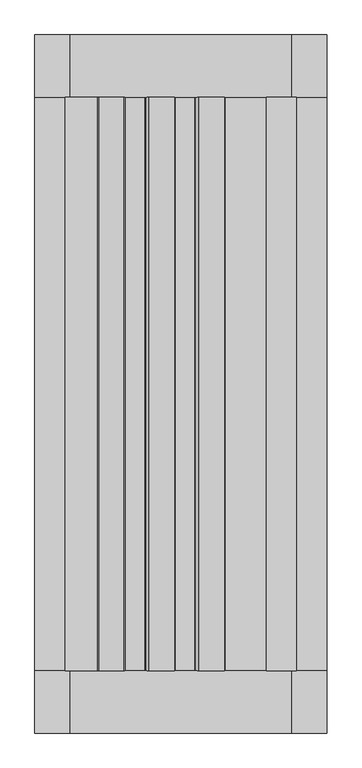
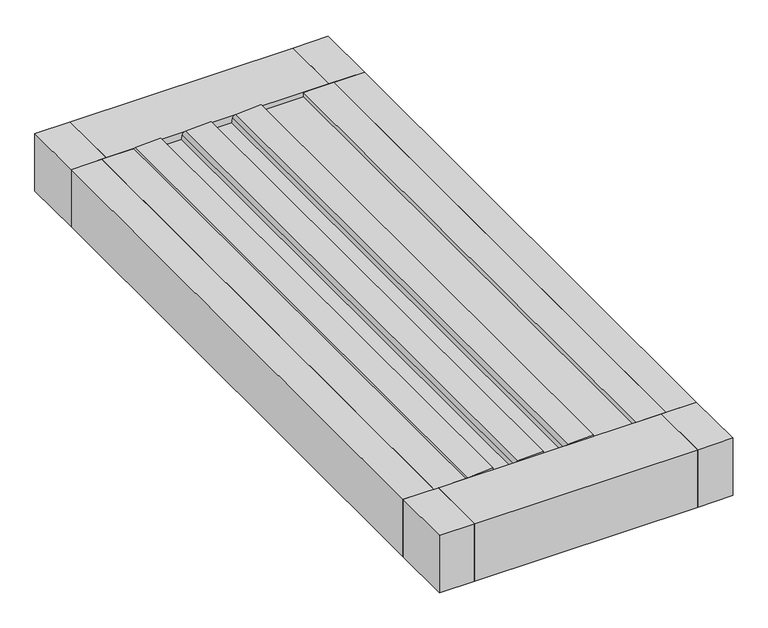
"""IFC4 building model written with IfcOpenShell, lengths in millimetres: proxy geometry, Renson_Aero_Skye_Patio covers : Aero Skye - Single."""

from ifc_helpers import new_model, si_unit, point, frame, frame_2d, origin, place, context, project, spatial, polyline, circle_curve, trimmed, segment, composite_curve, outline, extrude, source, transform, mapped, element, save


def generic_models_31180d13(model_context):
    return source(origin(), model_context, "Body", "SweptSolid", [
        extrude(outline(composite_curve([segment(polyline([(-41.65, -55.9044673), (-13.98802, -53.4843576), (-12.6029636, -24.6491072), (6.8911096, -28.0864383), (1.6075693, -138.0835531)]), True, "CONTINUOUS"), segment(trimmed(circle_curve(frame_2d((-13.3751565, -137.3638812)), 15.0), [point((1.6075693, -138.0835531))], [point((-10.7704338, -152.1359975))], False, "CARTESIAN"), True, "CONTINUOUS"), segment(polyline([(-10.7704338, -152.1359975), (-30.0, -155.5266888), (-30.0, -243.2624648), (-12.9211763, -246.2739223), (-13.6549818, -261.5508927), (-41.65, -264.0001395), (-41.65, -55.9044673)]), True, "CONTINUOUS")], self_intersect=False)), frame((0.0, -1232.0, 0.0), z_axis=(0.0, 1.0, 0.0), x_axis=(0.0, 0.0, 1.0)), (0.0, 0.0, 1.0), 2464.0),
        extrude(outline(composite_curve([segment(polyline([(-41.65, 159.181971), (-13.98802, 161.6020806), (-12.6029636, 190.4373311), (6.8911096, 187.0), (1.6075693, 77.0028852)]), True, "CONTINUOUS"), segment(trimmed(circle_curve(frame_2d((-13.3751565, 77.7225571)), 15.0), [point((1.6075693, 77.0028852))], [point((-10.7704338, 62.9504408))], False, "CARTESIAN"), True, "CONTINUOUS"), segment(polyline([(-10.7704338, 62.9504408), (-30.0, 59.5597494), (-30.0, -28.1760266), (-12.9211763, -31.187484), (-13.6549818, -46.4644545), (-41.65, -48.9137012), (-41.65, 159.181971)]), True, "CONTINUOUS")], self_intersect=False)), frame((0.0, -1232.0, 0.0), z_axis=(0.0, 1.0, 0.0), x_axis=(0.0, 0.0, 1.0)), (0.0, 0.0, 1.0), 2464.0),
        extrude(outline(composite_curve([segment(polyline([(-41.65, -270.9909055), (-13.98802, -268.5707959), (-12.6029636, -239.7355454), (6.8911096, -243.1728765), (1.6075693, -353.1699914)]), True, "CONTINUOUS"), segment(trimmed(circle_curve(frame_2d((-13.3751565, -352.4503194)), 15.0), [point((1.6075693, -353.1699914))], [point((-10.7704338, -367.2224357))], False, "CARTESIAN"), True, "CONTINUOUS"), segment(polyline([(-10.7704338, -367.2224357), (-30.0, -370.6131271), (-30.0, -458.3489031), (-12.9211763, -461.3603605), (-13.6549818, -476.637331), (-41.65, -479.0865777), (-41.65, -270.9909055)]), True, "CONTINUOUS")], self_intersect=False)), frame((0.0, -1232.0, 0.0), z_axis=(0.0, 1.0, 0.0), x_axis=(0.0, 0.0, 1.0)), (0.0, 0.0, 1.0), 2464.0),
        extrude(outline(polyline([(-63.35, 497.0), (0.0, 497.0), (0.0, 367.5), (-20.0, 367.5), (-20.0, 187.0), (-44.0, 187.0), (-44.0, 337.0), (-63.35, 337.0), (-63.35, 497.0)])), frame((0.0, -1232.0, 0.0), z_axis=(0.0, 1.0, 0.0), x_axis=(0.0, 0.0, 1.0)), (0.0, 0.0, 1.0), 2464.0),
        extrude(outline(polyline([(0.0, -337.0), (0.0, -497.0), (-44.0, -497.0), (-44.0, -364.3193336), (-10.8283397, -361.4171894), (-9.655498, -337.0), (0.0, -337.0)])), frame((0.0, -1232.0, 0.0), z_axis=(0.0, 1.0, 0.0), x_axis=(0.0, 0.0, 1.0)), (0.0, 0.0, 1.0), 2464.0),
        extrude(outline(polyline([(628.0, -1500.0), (478.0, -1500.0), (478.0, -1232.0), (628.0, -1232.0), (628.0, -1500.0)])), frame((0.0, 0.0, -260.0), z_axis=(0.0, 0.0, 1.0), x_axis=(1.0, 0.0, 0.0)), (0.0, 0.0, 1.0), 260.0),
        extrude(outline(polyline([(-628.0, -1500.0), (-628.0, -1232.0), (-478.0, -1232.0), (-478.0, -1500.0), (-628.0, -1500.0)])), frame((0.0, 0.0, -260.0), z_axis=(0.0, 0.0, 1.0), x_axis=(1.0, 0.0, 0.0)), (0.0, 0.0, 1.0), 260.0),
        extrude(outline(polyline([(-478.0, 1232.0), (-628.0, 1232.0), (-628.0, 1500.0), (-478.0, 1500.0), (-478.0, 1232.0)])), frame((0.0, 0.0, -260.0), z_axis=(0.0, 0.0, 1.0), x_axis=(1.0, 0.0, 0.0)), (0.0, 0.0, 1.0), 260.0),
        extrude(outline(polyline([(628.0, 1500.0), (628.0, 1232.0), (478.0, 1232.0), (478.0, 1500.0), (628.0, 1500.0)])), frame((0.0, 0.0, -260.0), z_axis=(0.0, 0.0, 1.0), x_axis=(1.0, 0.0, 0.0)), (0.0, 0.0, 1.0), 260.0),
        extrude(outline(polyline([(-1232.0, -188.0), (-1170.0, -188.0), (-1170.0, -260.0), (-1500.0, -260.0), (-1500.0, 0.0), (-1232.0, 0.0), (-1232.0, -188.0)])), frame((-478.0, 0.0, 0.0), z_axis=(1.0, 0.0, 0.0), x_axis=(0.0, 1.0, 0.0)), (0.0, 0.0, 1.0), 956.0),
        extrude(outline(polyline([(1232.0, -188.0), (1232.0, 0.0), (1500.0, 0.0), (1500.0, -260.0), (1170.0, -260.0), (1170.0, -188.0), (1232.0, -188.0)])), frame((-478.0, 0.0, 0.0), z_axis=(1.0, 0.0, 0.0), x_axis=(0.0, 1.0, 0.0)), (0.0, 0.0, 1.0), 956.0),
        extrude(outline(polyline([(-64.0, 497.0), (-64.0, 478.0), (-260.0, 478.0), (-260.0, 628.0), (0.0, 628.0), (0.0, 497.0), (-64.0, 497.0)])), frame((0.0, -1232.0, 0.0), z_axis=(0.0, 1.0, 0.0), x_axis=(0.0, 0.0, 1.0)), (0.0, 0.0, 1.0), 2464.0),
        extrude(outline(polyline([(-64.0, -497.0), (0.0, -497.0), (0.0, -628.0), (-260.0, -628.0), (-260.0, -478.0), (-64.0, -478.0), (-64.0, -497.0)])), frame((0.0, -1232.0, 0.0), z_axis=(0.0, 1.0, 0.0), x_axis=(0.0, 0.0, 1.0)), (0.0, 0.0, 1.0), 2464.0),
    ])


if __name__ == "__main__":
    model = new_model("IFC4")
    model_context = context("Model", 3, world=origin())
    ifc_project = project(units=[si_unit("LENGTHUNIT", "METRE", prefix="MILLI")], contexts=[model_context])
    site = spatial("IfcSite", under=ifc_project)
    building = spatial("IfcBuilding", under=site)
    placement = place(None, origin())
    generic_models_shape = generic_models_31180d13(model_context)
    element("IfcBuildingElementProxy", 1, Name="Renson_Aero_Skye_Patio covers : Aero Skye - Single", ObjectType="Renson_Aero_Skye_Patio covers : Aero Skye - Single", at=placement, inside=building, context=model_context, shape_type="MappedRepresentation", body=[
        mapped(generic_models_shape, transform((0.0, 0.0, 0.0), x_axis=(1.0, 0.0, 0.0), y_axis=(0.0, 1.0, 0.0), z_axis=(0.0, 0.0, 1.0))),
    ])
    save(model, "model.ifc")
